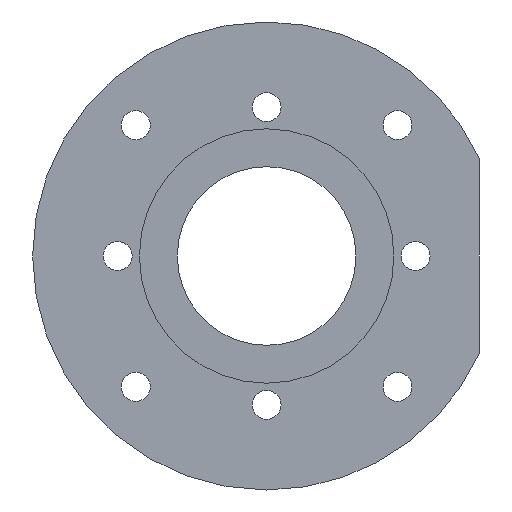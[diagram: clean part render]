
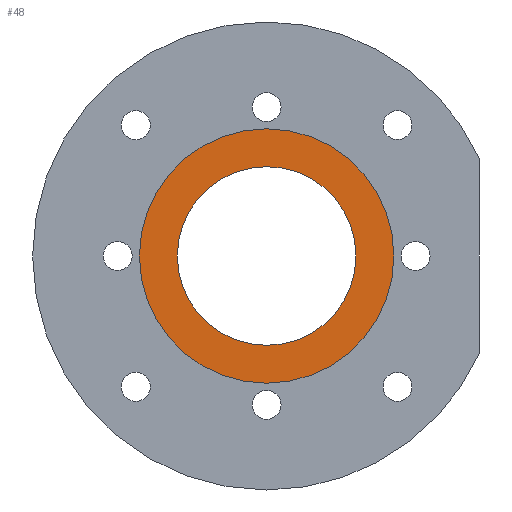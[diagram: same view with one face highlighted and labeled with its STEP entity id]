
A CAD part, left-side view. The second image highlights one B-rep face of the part: STEP entity #48.
In plain terms, the highlighted planar face has unit normal (-1, 0, 0).
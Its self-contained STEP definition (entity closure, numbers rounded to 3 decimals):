
#36 = VERTEX_POINT ( 'NONE', #415 ) ;
#39 = VERTEX_POINT ( 'NONE', #409 ) ;
#47 = VERTEX_POINT ( 'NONE', #424 ) ;
#48 = ADVANCED_FACE ( 'NONE', ( #423, #430 ), #421, .F. ) ;
#51 = EDGE_CURVE ( 'NONE', #36, #39, #429, .T. ) ;
#121 = EDGE_LOOP ( 'NONE', ( #197, #193 ) ) ;
#192 = ORIENTED_EDGE ( 'NONE', *, *, #194, .T. ) ;
#193 = ORIENTED_EDGE ( 'NONE', *, *, #220, .F. ) ;
#194 = EDGE_CURVE ( 'NONE', #39, #36, #501, .T. ) ;
#195 = EDGE_CURVE ( 'NONE', #219, #47, #509, .T. ) ;
#196 = ORIENTED_EDGE ( 'NONE', *, *, #51, .T. ) ;
#197 = ORIENTED_EDGE ( 'NONE', *, *, #195, .F. ) ;
#219 = VERTEX_POINT ( 'NONE', #1024 ) ;
#220 = EDGE_CURVE ( 'NONE', #47, #219, #1059, .T. ) ;
#222 = EDGE_LOOP ( 'NONE', ( #196, #192 ) ) ;
#409 = CARTESIAN_POINT ( 'NONE',  ( 0., 0., -29.9 ) ) ;
#415 = CARTESIAN_POINT ( 'NONE',  ( 0., 0., 29.9 ) ) ;
#421 = PLANE ( 'NONE',  #435 ) ;
#422 = DIRECTION ( 'NONE',  ( 1., 0., 0. ) ) ;
#423 = FACE_BOUND ( 'NONE', #121, .T. ) ;
#424 = CARTESIAN_POINT ( 'NONE',  ( 0., 0., -21. ) ) ;
#429 = CIRCLE ( 'NONE', #440, 29.9 ) ;
#430 = FACE_OUTER_BOUND ( 'NONE', #222, .T. ) ;
#434 = CARTESIAN_POINT ( 'NONE',  ( 0., 29.9, 0. ) ) ;
#435 = AXIS2_PLACEMENT_3D ( 'NONE', #434, #422, #444 ) ;
#437 = DIRECTION ( 'NONE',  ( 0., 0., 1. ) ) ;
#438 = DIRECTION ( 'NONE',  ( -1., 0., 0. ) ) ;
#439 = CARTESIAN_POINT ( 'NONE',  ( 0., 0., 0. ) ) ;
#440 = AXIS2_PLACEMENT_3D ( 'NONE', #439, #438, #437 ) ;
#444 = DIRECTION ( 'NONE',  ( 0., 0., -1. ) ) ;
#471 = CARTESIAN_POINT ( 'NONE',  ( 0., 0., 0. ) ) ;
#472 = AXIS2_PLACEMENT_3D ( 'NONE', #471, #490, #498 ) ;
#490 = DIRECTION ( 'NONE',  ( -1., 0., 0. ) ) ;
#498 = DIRECTION ( 'NONE',  ( 0., 0., 1. ) ) ;
#501 = CIRCLE ( 'NONE', #518, 29.9 ) ;
#509 = CIRCLE ( 'NONE', #472, 21. ) ;
#510 = DIRECTION ( 'NONE',  ( 0., 0., 1. ) ) ;
#511 = DIRECTION ( 'NONE',  ( -1., 0., 0. ) ) ;
#517 = CARTESIAN_POINT ( 'NONE',  ( 0., 0., 0. ) ) ;
#518 = AXIS2_PLACEMENT_3D ( 'NONE', #517, #511, #510 ) ;
#1000 = CARTESIAN_POINT ( 'NONE',  ( 0., 0., 0. ) ) ;
#1024 = CARTESIAN_POINT ( 'NONE',  ( 0., 0., 21. ) ) ;
#1032 = DIRECTION ( 'NONE',  ( 0., 0., 1. ) ) ;
#1033 = DIRECTION ( 'NONE',  ( -1., 0., 0. ) ) ;
#1034 = AXIS2_PLACEMENT_3D ( 'NONE', #1000, #1033, #1032 ) ;
#1059 = CIRCLE ( 'NONE', #1034, 21. ) ;
